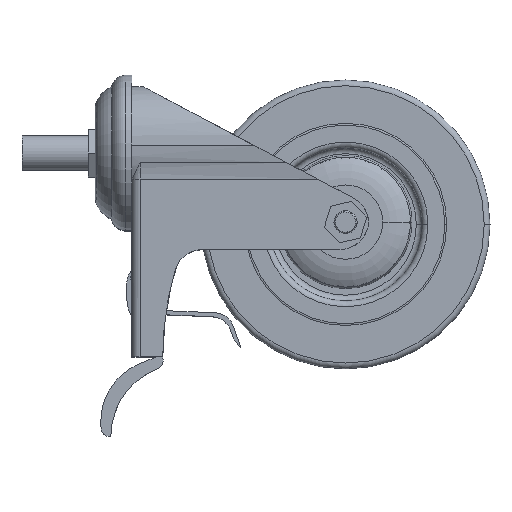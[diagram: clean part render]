
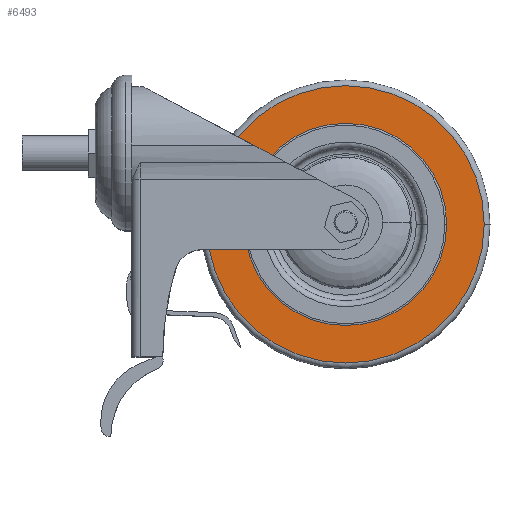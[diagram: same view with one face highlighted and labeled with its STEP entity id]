
A CAD part, top view. The second image highlights one B-rep face of the part: STEP entity #6493.
In plain terms, the highlighted planar face has unit normal (0, 0, 1).
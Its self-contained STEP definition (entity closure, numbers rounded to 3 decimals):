
#584 = CIRCLE ( 'NONE', #5846, 48. ) ;
#865 = ORIENTED_EDGE ( 'NONE', *, *, #1175, .T. ) ;
#1023 = DIRECTION ( 'NONE',  ( 0., 0., -1. ) ) ;
#1062 = DIRECTION ( 'NONE',  ( 0., 0., 1. ) ) ;
#1143 = DIRECTION ( 'NONE',  ( 0., 0., 1. ) ) ;
#1175 = EDGE_CURVE ( 'NONE', #6723, #6911, #4541, .T. ) ;
#1361 = CARTESIAN_POINT ( 'NONE',  ( -70.125, 15.113, 25. ) ) ;
#1666 = AXIS2_PLACEMENT_3D ( 'NONE', #4377, #1143, #4944 ) ;
#1850 = VERTEX_POINT ( 'NONE', #1361 ) ;
#2063 = CARTESIAN_POINT ( 'NONE',  ( -22.125, 15.113, 25. ) ) ;
#2246 = CARTESIAN_POINT ( 'NONE',  ( 12.875, 15.113, 25. ) ) ;
#2427 = ORIENTED_EDGE ( 'NONE', *, *, #2811, .T. ) ;
#2472 = CARTESIAN_POINT ( 'NONE',  ( -57.125, 15.113, 25. ) ) ;
#2551 = FACE_OUTER_BOUND ( 'NONE', #4766, .T. ) ;
#2672 = CIRCLE ( 'NONE', #4123, 35. ) ;
#2811 = EDGE_CURVE ( 'NONE', #6911, #6723, #2672, .T. ) ;
#3097 = DIRECTION ( 'NONE',  ( 0., 0., -1. ) ) ;
#3154 = DIRECTION ( 'NONE',  ( 1., 0., 0. ) ) ;
#3240 = EDGE_CURVE ( 'NONE', #6432, #1850, #7003, .T. ) ;
#3691 = AXIS2_PLACEMENT_3D ( 'NONE', #2063, #6417, #3154 ) ;
#3817 = FACE_BOUND ( 'NONE', #4328, .T. ) ;
#4123 = AXIS2_PLACEMENT_3D ( 'NONE', #6364, #3097, #6910 ) ;
#4162 = CARTESIAN_POINT ( 'NONE',  ( 25.875, 15.113, 25. ) ) ;
#4263 = CARTESIAN_POINT ( 'NONE',  ( -22.125, 15.113, 25. ) ) ;
#4295 = CARTESIAN_POINT ( 'NONE',  ( -22.125, 15.113, 25. ) ) ;
#4328 = EDGE_LOOP ( 'NONE', ( #865, #2427 ) ) ;
#4356 = ORIENTED_EDGE ( 'NONE', *, *, #6564, .T. ) ;
#4377 = CARTESIAN_POINT ( 'NONE',  ( -22.125, 15.113, 25. ) ) ;
#4541 = CIRCLE ( 'NONE', #6455, 35. ) ;
#4766 = EDGE_LOOP ( 'NONE', ( #6579, #4356 ) ) ;
#4822 = DIRECTION ( 'NONE',  ( 1., 0., 0. ) ) ;
#4860 = DIRECTION ( 'NONE',  ( 1., 0., 0. ) ) ;
#4944 = DIRECTION ( 'NONE',  ( 1., 0., 0. ) ) ;
#5820 = PLANE ( 'NONE',  #3691 ) ;
#5846 = AXIS2_PLACEMENT_3D ( 'NONE', #4295, #1062, #4860 ) ;
#6364 = CARTESIAN_POINT ( 'NONE',  ( -22.125, 15.113, 25. ) ) ;
#6417 = DIRECTION ( 'NONE',  ( 0., 0., 1. ) ) ;
#6432 = VERTEX_POINT ( 'NONE', #4162 ) ;
#6455 = AXIS2_PLACEMENT_3D ( 'NONE', #4263, #1023, #4822 ) ;
#6493 = ADVANCED_FACE ( 'NONE', ( #2551, #3817 ), #5820, .T. ) ;
#6564 = EDGE_CURVE ( 'NONE', #1850, #6432, #584, .T. ) ;
#6579 = ORIENTED_EDGE ( 'NONE', *, *, #3240, .T. ) ;
#6723 = VERTEX_POINT ( 'NONE', #2246 ) ;
#6910 = DIRECTION ( 'NONE',  ( 1., 0., 0. ) ) ;
#6911 = VERTEX_POINT ( 'NONE', #2472 ) ;
#7003 = CIRCLE ( 'NONE', #1666, 48. ) ;
